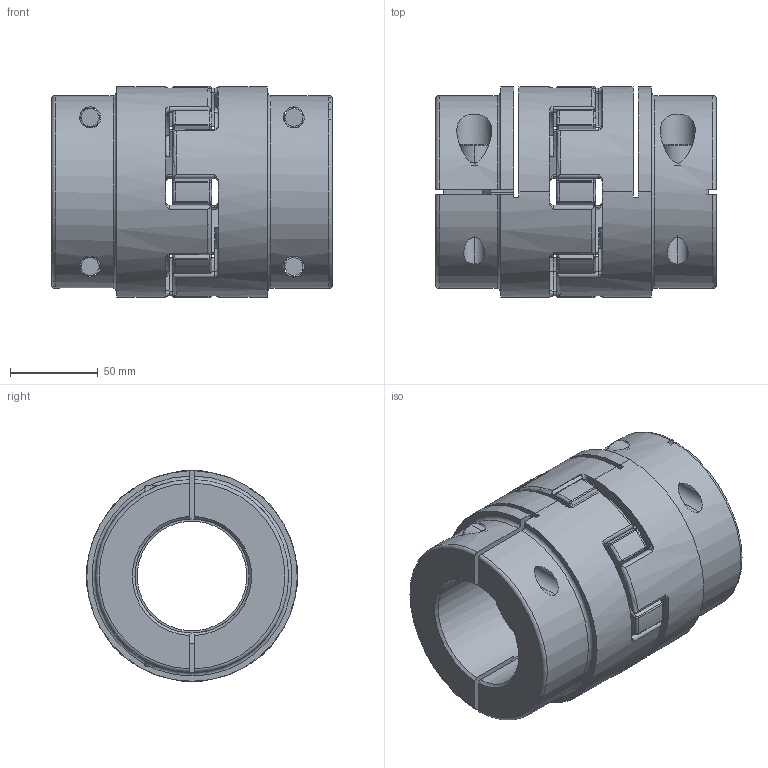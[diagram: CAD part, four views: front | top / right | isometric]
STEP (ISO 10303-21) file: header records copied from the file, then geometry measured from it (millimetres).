
FILE_DESCRIPTION (( 'STEP AP214' ), '1' );
FILE_NAME ('SJC-120C ASSY.STEP', '2016-03-16T09:08:37', ( '' ), ( '' ), 'SwSTEP 2.0', 'SolidWorks 2015', '' );
FILE_SCHEMA (( 'AUTOMOTIVE_DESIGN' ));
Length unit declared in the file: millimetre
Products named in the file (1): SJC-120C ASSY
Bounding box: 160 x 120.55 x 120.55 mm (x, y, z)
Surface area: 165967.4 mm2 (no closed solid volume)
Topology: 0 solids, 11 shells, 391 faces, 1201 edges, 804 vertices
Faces by surface type: cylinder 133, torus 112, plane 84, bspline 32, cone 30
Entity records: 20763 total; most frequent: CARTESIAN_POINT 5859, DIRECTION 2383, ORIENTED_EDGE 2044, EDGE_CURVE 1193, AXIS2_PLACEMENT_3D 1042, VERTEX_POINT 804, CIRCLE 682, EDGE_LOOP 429
